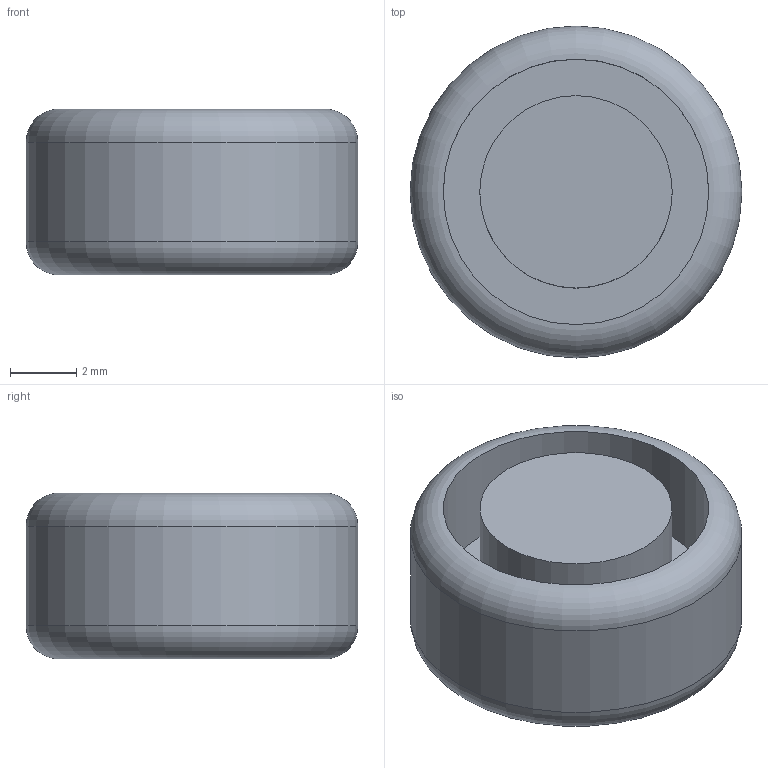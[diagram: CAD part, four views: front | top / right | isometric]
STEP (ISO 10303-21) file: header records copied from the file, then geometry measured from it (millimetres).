
FILE_DESCRIPTION(/* description */ (''),/* implementation_level */ '2;1');
FILE_NAME(/* name */ 'V:\Flow\Inventor\PEEK\BPR\Stempel oben - 6mmID.stp',/* time_stamp */ '2019-12-20T10:07:16+01:00',/* author */ ('JN'),/* organization */ (''),/* preprocessor_version */ 'ST-DEVELOPER v17',/* originating_system */ 'Autodesk Inventor 2018',/* authorisation */ '');
FILE_SCHEMA (('AUTOMOTIVE_DESIGN { 1 0 10303 214 3 1 1 }'));
Length unit declared in the file: millimetre
Products named in the file (1): Stempel oben
Bounding box: 10 x 10 x 5 mm (x, y, z)
Volume: 308.3 mm3; surface area: 416.4 mm2
Topology: 1 solids, 1 shells, 8 faces, 12 edges, 7 vertices
Faces by surface type: cylinder 3, plane 3, torus 2
Full cylindrical faces by diameter (mm): 5.8 x1, 8 x1, 10 x1
Entity records: 220 total; most frequent: DIRECTION 39, CARTESIAN_POINT 28, ORIENTED_EDGE 24, AXIS2_PLACEMENT_3D 18, EDGE_CURVE 12, EDGE_LOOP 9, CIRCLE 9, FACE_OUTER_BOUND 8
